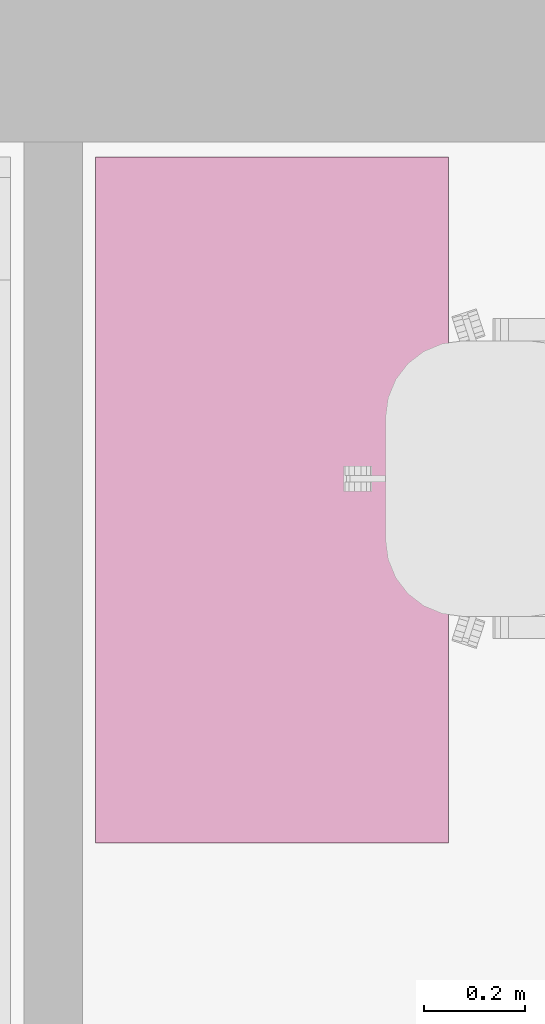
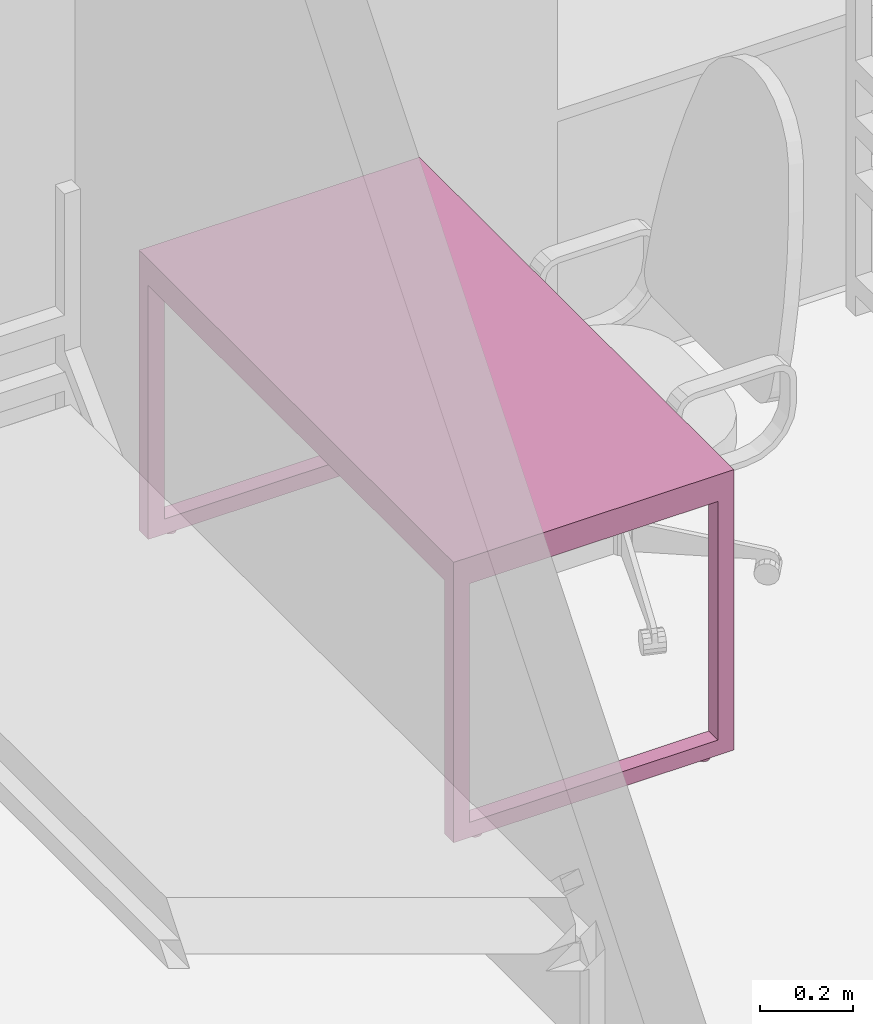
# One storey, part 40 of 46: 1 furnishing.
"""IFC2X3 building model written with IfcOpenShell, lengths in millimetres."""

from ifc_helpers import new_model, entity, si_unit, converted_unit, derived_unit, direction, frame, origin, place, context, subcontext, project, spatial, faceted_brep, source, transform, mapped, material, material_list, type_object, type_shapes, element, save


model = new_model("IFC2X3")

# Units and contexts
model_context = context("Model", 3, precision=0.01, world=origin(), true_north=direction((6.12303176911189e-17, 1.0)))
body_context = subcontext(model_context, "Body", "Model", "MODEL_VIEW")
ifc_project = project(units=[si_unit("LENGTHUNIT", "METRE", prefix="MILLI"), si_unit("AREAUNIT", "SQUARE_METRE"), si_unit("VOLUMEUNIT", "CUBIC_METRE"), converted_unit("PLANEANGLEUNIT", "DEGREE", entity("IfcRatioMeasure", 0.0174532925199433), si_unit("PLANEANGLEUNIT", "RADIAN"), dimensions=[0, 0, 0, 0, 0, 0, 0]), si_unit("MASSUNIT", "GRAM", prefix="KILO"), derived_unit("MASSDENSITYUNIT", [(si_unit("MASSUNIT", "GRAM", prefix="KILO"), 1), (si_unit("LENGTHUNIT", "METRE"), -3)]), si_unit("TIMEUNIT", "SECOND"), si_unit("FREQUENCYUNIT", "HERTZ"), si_unit("THERMODYNAMICTEMPERATUREUNIT", "DEGREE_CELSIUS"), derived_unit("THERMALTRANSMITTANCEUNIT", [(si_unit("MASSUNIT", "GRAM", prefix="KILO"), 1), (si_unit("THERMODYNAMICTEMPERATUREUNIT", "KELVIN"), -1), (si_unit("TIMEUNIT", "SECOND"), -3)]), derived_unit("VOLUMETRICFLOWRATEUNIT", [(si_unit("LENGTHUNIT", "METRE"), 3), (si_unit("TIMEUNIT", "SECOND"), -1)]), si_unit("ELECTRICCURRENTUNIT", "AMPERE"), si_unit("ELECTRICVOLTAGEUNIT", "VOLT"), si_unit("POWERUNIT", "WATT"), si_unit("FORCEUNIT", "NEWTON", prefix="KILO"), si_unit("ILLUMINANCEUNIT", "LUX"), si_unit("LUMINOUSFLUXUNIT", "LUMEN"), si_unit("LUMINOUSINTENSITYUNIT", "CANDELA"), derived_unit("USERDEFINED", [(si_unit("MASSUNIT", "GRAM", prefix="KILO"), -1), (si_unit("LENGTHUNIT", "METRE"), -2), (si_unit("TIMEUNIT", "SECOND"), 3), (si_unit("LUMINOUSFLUXUNIT", "LUMEN"), 1)]), derived_unit("LINEARVELOCITYUNIT", [(si_unit("LENGTHUNIT", "METRE"), 1), (si_unit("TIMEUNIT", "SECOND"), -1)]), si_unit("PRESSUREUNIT", "PASCAL"), derived_unit("USERDEFINED", [(si_unit("LENGTHUNIT", "METRE"), -2), (si_unit("MASSUNIT", "GRAM", prefix="KILO"), 1), (si_unit("TIMEUNIT", "SECOND"), -2)]), derived_unit("LINEARFORCEUNIT", [(si_unit("MASSUNIT", "GRAM", prefix="KILO"), 1), (si_unit("LENGTHUNIT", "METRE"), 1), (si_unit("TIMEUNIT", "SECOND"), -2), (si_unit("LENGTHUNIT", "METRE"), -1)]), derived_unit("PLANARFORCEUNIT", [(si_unit("MASSUNIT", "GRAM", prefix="KILO"), 1), (si_unit("LENGTHUNIT", "METRE"), 1), (si_unit("TIMEUNIT", "SECOND"), -2), (si_unit("LENGTHUNIT", "METRE"), -2)])], contexts=[model_context])

# Site, building, storey, space
site_placement = place(None, origin())
site = spatial("IfcSite", under=ifc_project, at=site_placement, Name="Default", CompositionType="ELEMENT")
building_placement = place(site_placement, origin())
building = spatial("IfcBuilding", under=site, at=building_placement, Name="SMA ARH", CompositionType="ELEMENT")
storey_placement = place(building_placement, origin())
storey = spatial("IfcBuildingStorey", under=building, at=storey_placement, Name="1 Korrus", CompositionType="ELEMENT", Elevation=0.0)
space_placement = place(storey_placement, origin())
space = spatial("IfcSpace", under=storey, at=space_placement, Name="1-24", CompositionType="ELEMENT", InteriorOrExteriorSpace="INTERNAL")

# Furnishing
ifc_material = material(Name="<Unnamed>")
ifc_material_list = material_list([ifc_material, ifc_material])
furniture_type = type_object("IfcFurnitureType", Name="kirjutuslaud 1360x700mm:kirjutuslaud 1360x700mm", material=ifc_material_list)
shared_shape = source(origin(), body_context, "Body", "Brep", [
    faceted_brep([(680.0, -350.0, 720.0), (680.0, 350.0, 720.0), (680.0, 350.0, 750.0), (680.0, -350.0, 750.0), (-680.0, -350.0, 720.0), (-680.0, -350.0, 750.0), (-680.0, 350.0, 750.0), (-680.0, 350.0, 720.0)], [[[0, 1, 2, 3]], [[4, 5, 6, 7]], [[1, 0, 4, 7]], [[2, 1, 7, 6]], [[3, 2, 6, 5]], [[0, 3, 5, 4]]]),
    faceted_brep([(-640.0, -310.0, 680.0), (-640.0, 310.0, 680.0), (-640.0, 310.0, 720.0), (-640.0, -310.0, 720.0), (-680.0, -350.0, 720.0), (-680.0, 350.0, 720.0), (-680.0, 350.0, 10.0), (-680.0, -350.0, 10.0), (-680.0, 310.0, 680.0), (-680.0, -310.0, 680.0), (-680.0, -310.0, 50.0), (-680.0, 310.0, 50.0), (-640.0, -350.0, 10.0), (-640.0, -350.0, 680.0), (640.0, -350.0, 680.0), (640.0, -350.0, 10.0), (680.0, -350.0, 10.0), (680.0, -350.0, 720.0), (-640.0, 350.0, 10.0), (680.0, 350.0, 720.0), (680.0, 350.0, 10.0), (640.0, 350.0, 10.0), (640.0, 350.0, 680.0), (-640.0, 350.0, 680.0), (640.0, 310.0, 720.0), (640.0, -310.0, 720.0), (-640.0, 310.0, 50.0), (-640.0, -310.0, 50.0), (640.0, -310.0, 680.0), (640.0, 310.0, 680.0), (680.0, 310.0, 680.0), (680.0, 310.0, 50.0), (680.0, -310.0, 50.0), (680.0, -310.0, 680.0), (640.0, -310.0, 50.0), (640.0, 310.0, 50.0)], [[[0, 1, 2, 3]], [[4, 5, 6, 7], [8, 9, 10, 11]], [[4, 7, 12, 13, 14, 15, 16, 17]], [[18, 12, 7, 6]], [[6, 5, 19, 20, 21, 22, 23, 18]], [[19, 5, 4, 17], [2, 24, 25, 3]], [[26, 1, 8, 11]], [[27, 26, 11, 10]], [[0, 27, 10, 9]], [[1, 0, 9, 8]], [[14, 13, 0, 28]], [[24, 2, 1, 29]], [[3, 25, 28, 0]], [[17, 16, 20, 19], [30, 31, 32, 33]], [[21, 15, 14, 28, 34, 35, 29, 22]], [[20, 16, 15, 21]], [[31, 30, 29, 35]], [[32, 31, 35, 34]], [[33, 32, 34, 28]], [[30, 33, 28, 29]], [[29, 28, 25, 24]], [[29, 1, 23, 22]], [[12, 18, 23, 1, 26, 27, 0, 13]]]),
    faceted_brep([(-663.729456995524, -270.466136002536, 0.0), (-659.847171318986, -269.955023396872, 0.0), (-655.964885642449, -270.466136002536, 0.0), (-652.347171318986, -271.964642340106, 0.0), (-649.240569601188, -274.348421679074, 0.0), (-646.85679026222, -277.455023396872, 0.0), (-645.35828392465, -281.072737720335, 0.0), (-644.847171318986, -284.955023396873, 0.0), (-645.35828392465, -288.83730907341, 0.0), (-646.85679026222, -292.455023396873, 0.0), (-649.240569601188, -295.561625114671, 0.0), (-652.347171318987, -297.945404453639, 0.0), (-655.964885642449, -299.443910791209, 0.0), (-659.847171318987, -299.955023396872, 0.0), (-663.729456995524, -299.443910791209, 0.0), (-667.347171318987, -297.945404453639, 0.0), (-670.453773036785, -295.561625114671, 0.0), (-672.837552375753, -292.455023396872, 0.0), (-674.336058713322, -288.83730907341, 0.0), (-674.847171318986, -284.955023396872, 0.0), (-674.336058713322, -281.072737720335, 0.0), (-672.837552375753, -277.455023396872, 0.0), (-670.453773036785, -274.348421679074, 0.0), (-667.347171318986, -271.964642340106, 0.0), (-655.964885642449, -299.443910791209, 10.0), (-652.347171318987, -297.945404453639, 10.0), (-649.240569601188, -295.561625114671, 10.0), (-646.85679026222, -292.455023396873, 10.0), (-645.35828392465, -288.83730907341, 10.0), (-644.847171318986, -284.955023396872, 10.0), (-645.35828392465, -281.072737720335, 10.0), (-646.85679026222, -277.455023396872, 10.0), (-649.240569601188, -274.348421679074, 10.0), (-652.347171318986, -271.964642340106, 10.0), (-655.964885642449, -270.466136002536, 10.0), (-659.847171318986, -269.955023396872, 10.0), (-663.729456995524, -270.466136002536, 10.0), (-667.347171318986, -271.964642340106, 10.0), (-670.453773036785, -274.348421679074, 10.0), (-672.837552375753, -277.455023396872, 10.0), (-674.336058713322, -281.072737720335, 10.0), (-674.847171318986, -284.955023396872, 10.0), (-674.336058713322, -288.83730907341, 10.0), (-672.837552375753, -292.455023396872, 10.0), (-670.453773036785, -295.561625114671, 10.0), (-667.347171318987, -297.945404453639, 10.0), (-663.729456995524, -299.443910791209, 10.0), (-659.847171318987, -299.955023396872, 10.0)], [[[0, 1, 2, 3, 4, 5, 6, 7, 8, 9, 10, 11, 12, 13, 14, 15, 16, 17, 18, 19, 20, 21, 22, 23]], [[24, 25, 26, 27, 28, 29, 30, 31, 32, 33, 34, 35, 36, 37, 38, 39, 40, 41, 42, 43, 44, 45, 46, 47]], [[18, 42, 41, 19]], [[17, 43, 42, 18]], [[45, 44, 16, 15]], [[17, 16, 44, 43]], [[46, 45, 15, 14]], [[47, 46, 14, 13]], [[12, 24, 47, 13]], [[11, 25, 24, 12]], [[27, 26, 10, 9]], [[11, 10, 26, 25]], [[28, 27, 9, 8]], [[29, 28, 8, 7]], [[6, 30, 29, 7]], [[5, 31, 30, 6]], [[33, 32, 4, 3]], [[5, 4, 32, 31]], [[34, 33, 3, 2]], [[35, 34, 2, 1]], [[0, 36, 35, 1]], [[23, 37, 36, 0]], [[39, 38, 22, 21]], [[23, 22, 38, 37]], [[40, 39, 21, 20]], [[41, 40, 20, 19]]]),
    faceted_brep([(-655.964885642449, 270.466136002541, 10.0), (-652.347171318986, 271.964642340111, 10.0), (-649.240569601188, 274.348421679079, 10.0), (-646.85679026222, 277.455023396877, 10.0), (-645.35828392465, 281.07273772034, 10.0), (-644.847171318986, 284.955023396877, 10.0), (-645.35828392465, 288.837309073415, 10.0), (-646.85679026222, 292.455023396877, 10.0), (-649.240569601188, 295.561625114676, 10.0), (-652.347171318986, 297.945404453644, 10.0), (-655.964885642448, 299.443910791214, 10.0), (-659.847171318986, 299.955023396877, 10.0), (-663.729456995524, 299.443910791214, 10.0), (-667.347171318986, 297.945404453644, 10.0), (-670.453773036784, 295.561625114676, 10.0), (-672.837552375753, 292.455023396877, 10.0), (-674.336058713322, 288.837309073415, 10.0), (-674.847171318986, 284.955023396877, 10.0), (-674.336058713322, 281.07273772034, 10.0), (-672.837552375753, 277.455023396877, 10.0), (-670.453773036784, 274.348421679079, 10.0), (-667.347171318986, 271.964642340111, 10.0), (-663.729456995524, 270.466136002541, 10.0), (-659.847171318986, 269.955023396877, 10.0), (-655.964885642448, 299.443910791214, 0.0), (-652.347171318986, 297.945404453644, 0.0), (-649.240569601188, 295.561625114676, 0.0), (-646.85679026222, 292.455023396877, 0.0), (-645.35828392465, 288.837309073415, 0.0), (-644.847171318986, 284.955023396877, 0.0), (-645.35828392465, 281.07273772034, 0.0), (-646.85679026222, 277.455023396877, 0.0), (-649.240569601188, 274.348421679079, 0.0), (-652.347171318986, 271.964642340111, 0.0), (-655.964885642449, 270.466136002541, 0.0), (-659.847171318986, 269.955023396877, 0.0), (-663.729456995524, 270.466136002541, 0.0), (-667.347171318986, 271.964642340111, 0.0), (-670.453773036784, 274.348421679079, 0.0), (-672.837552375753, 277.455023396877, 0.0), (-674.336058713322, 281.07273772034, 0.0), (-674.847171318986, 284.955023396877, 0.0), (-674.336058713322, 288.837309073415, 0.0), (-672.837552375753, 292.455023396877, 0.0), (-670.453773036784, 295.561625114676, 0.0), (-667.347171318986, 297.945404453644, 0.0), (-663.729456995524, 299.443910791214, 0.0), (-659.847171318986, 299.955023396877, 0.0)], [[[0, 1, 2, 3, 4, 5, 6, 7, 8, 9, 10, 11, 12, 13, 14, 15, 16, 17, 18, 19, 20, 21, 22, 23]], [[24, 25, 26, 27, 28, 29, 30, 31, 32, 33, 34, 35, 36, 37, 38, 39, 40, 41, 42, 43, 44, 45, 46, 47]], [[40, 18, 17, 41]], [[39, 19, 18, 40]], [[21, 20, 38, 37]], [[39, 38, 20, 19]], [[22, 21, 37, 36]], [[23, 22, 36, 35]], [[34, 0, 23, 35]], [[33, 1, 0, 34]], [[3, 2, 32, 31]], [[33, 32, 2, 1]], [[4, 3, 31, 30]], [[5, 4, 30, 29]], [[28, 6, 5, 29]], [[27, 7, 6, 28]], [[9, 8, 26, 25]], [[27, 26, 8, 7]], [[10, 9, 25, 24]], [[11, 10, 24, 47]], [[46, 12, 11, 47]], [[45, 13, 12, 46]], [[15, 14, 44, 43]], [[45, 44, 14, 13]], [[16, 15, 43, 42]], [[17, 16, 42, 41]]]),
    faceted_brep([(656.270543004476, -270.466136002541, 0.0), (660.152828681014, -269.955023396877, 0.0), (664.035114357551, -270.466136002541, 0.0), (667.652828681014, -271.96464234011, 0.0), (670.759430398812, -274.348421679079, 0.0), (673.14320973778, -277.455023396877, 0.0), (674.64171607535, -281.072737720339, 0.0), (675.152828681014, -284.955023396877, 0.0), (674.64171607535, -288.837309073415, 0.0), (673.14320973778, -292.455023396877, 0.0), (670.759430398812, -295.561625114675, 0.0), (667.652828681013, -297.945404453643, 0.0), (664.035114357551, -299.443910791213, 0.0), (660.152828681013, -299.955023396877, 0.0), (656.270543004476, -299.443910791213, 0.0), (652.652828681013, -297.945404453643, 0.0), (649.546226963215, -295.561625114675, 0.0), (647.162447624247, -292.455023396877, 0.0), (645.663941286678, -288.837309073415, 0.0), (645.152828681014, -284.955023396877, 0.0), (645.663941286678, -281.072737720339, 0.0), (647.162447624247, -277.455023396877, 0.0), (649.546226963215, -274.348421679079, 0.0), (652.652828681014, -271.96464234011, 0.0), (664.035114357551, -299.443910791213, 10.0), (667.652828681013, -297.945404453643, 10.0), (670.759430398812, -295.561625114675, 10.0), (673.14320973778, -292.455023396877, 10.0), (674.64171607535, -288.837309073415, 10.0), (675.152828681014, -284.955023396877, 10.0), (674.64171607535, -281.072737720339, 10.0), (673.14320973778, -277.455023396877, 10.0), (670.759430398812, -274.348421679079, 10.0), (667.652828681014, -271.96464234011, 10.0), (664.035114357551, -270.466136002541, 10.0), (660.152828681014, -269.955023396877, 10.0), (656.270543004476, -270.466136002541, 10.0), (652.652828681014, -271.96464234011, 10.0), (649.546226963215, -274.348421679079, 10.0), (647.162447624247, -277.455023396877, 10.0), (645.663941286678, -281.072737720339, 10.0), (645.152828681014, -284.955023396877, 10.0), (645.663941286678, -288.837309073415, 10.0), (647.162447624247, -292.455023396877, 10.0), (649.546226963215, -295.561625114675, 10.0), (652.652828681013, -297.945404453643, 10.0), (656.270543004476, -299.443910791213, 10.0), (660.152828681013, -299.955023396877, 10.0)], [[[0, 1, 2, 3, 4, 5, 6, 7, 8, 9, 10, 11, 12, 13, 14, 15, 16, 17, 18, 19, 20, 21, 22, 23]], [[24, 25, 26, 27, 28, 29, 30, 31, 32, 33, 34, 35, 36, 37, 38, 39, 40, 41, 42, 43, 44, 45, 46, 47]], [[18, 42, 41, 19]], [[17, 43, 42, 18]], [[45, 44, 16, 15]], [[17, 16, 44, 43]], [[46, 45, 15, 14]], [[47, 46, 14, 13]], [[12, 24, 47, 13]], [[11, 25, 24, 12]], [[27, 26, 10, 9]], [[11, 10, 26, 25]], [[28, 27, 9, 8]], [[29, 28, 8, 7]], [[6, 30, 29, 7]], [[5, 31, 30, 6]], [[33, 32, 4, 3]], [[5, 4, 32, 31]], [[34, 33, 3, 2]], [[35, 34, 2, 1]], [[0, 36, 35, 1]], [[23, 37, 36, 0]], [[39, 38, 22, 21]], [[23, 22, 38, 37]], [[40, 39, 21, 20]], [[41, 40, 20, 19]]]),
    faceted_brep([(664.035114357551, 270.466136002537, 10.0), (667.652828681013, 271.964642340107, 10.0), (670.759430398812, 274.348421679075, 10.0), (673.14320973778, 277.455023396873, 10.0), (674.64171607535, 281.072737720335, 10.0), (675.152828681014, 284.955023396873, 10.0), (674.64171607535, 288.837309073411, 10.0), (673.14320973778, 292.455023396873, 10.0), (670.759430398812, 295.561625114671, 10.0), (667.652828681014, 297.94540445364, 10.0), (664.035114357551, 299.443910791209, 10.0), (660.152828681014, 299.955023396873, 10.0), (656.270543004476, 299.443910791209, 10.0), (652.652828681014, 297.94540445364, 10.0), (649.546226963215, 295.561625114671, 10.0), (647.162447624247, 292.455023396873, 10.0), (645.663941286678, 288.837309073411, 10.0), (645.152828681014, 284.955023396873, 10.0), (645.663941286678, 281.072737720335, 10.0), (647.162447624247, 277.455023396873, 10.0), (649.546226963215, 274.348421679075, 10.0), (652.652828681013, 271.964642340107, 10.0), (656.270543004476, 270.466136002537, 10.0), (660.152828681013, 269.955023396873, 10.0), (664.035114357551, 299.443910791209, 0.0), (667.652828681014, 297.94540445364, 0.0), (670.759430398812, 295.561625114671, 0.0), (673.14320973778, 292.455023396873, 0.0), (674.64171607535, 288.837309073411, 0.0), (675.152828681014, 284.955023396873, 0.0), (674.64171607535, 281.072737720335, 0.0), (673.14320973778, 277.455023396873, 0.0), (670.759430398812, 274.348421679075, 0.0), (667.652828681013, 271.964642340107, 0.0), (664.035114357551, 270.466136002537, 0.0), (660.152828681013, 269.955023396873, 0.0), (656.270543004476, 270.466136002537, 0.0), (652.652828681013, 271.964642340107, 0.0), (649.546226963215, 274.348421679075, 0.0), (647.162447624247, 277.455023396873, 0.0), (645.663941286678, 281.072737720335, 0.0), (645.152828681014, 284.955023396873, 0.0), (645.663941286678, 288.837309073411, 0.0), (647.162447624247, 292.455023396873, 0.0), (649.546226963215, 295.561625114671, 0.0), (652.652828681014, 297.94540445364, 0.0), (656.270543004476, 299.443910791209, 0.0), (660.152828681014, 299.955023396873, 0.0)], [[[0, 1, 2, 3, 4, 5, 6, 7, 8, 9, 10, 11, 12, 13, 14, 15, 16, 17, 18, 19, 20, 21, 22, 23]], [[24, 25, 26, 27, 28, 29, 30, 31, 32, 33, 34, 35, 36, 37, 38, 39, 40, 41, 42, 43, 44, 45, 46, 47]], [[40, 18, 17, 41]], [[39, 19, 18, 40]], [[21, 20, 38, 37]], [[39, 38, 20, 19]], [[22, 21, 37, 36]], [[23, 22, 36, 35]], [[34, 0, 23, 35]], [[33, 1, 0, 34]], [[3, 2, 32, 31]], [[33, 32, 2, 1]], [[4, 3, 31, 30]], [[5, 4, 30, 29]], [[28, 6, 5, 29]], [[27, 7, 6, 28]], [[9, 8, 26, 25]], [[27, 26, 8, 7]], [[10, 9, 25, 24]], [[11, 10, 24, 47]], [[46, 12, 11, 47]], [[45, 13, 12, 46]], [[15, 14, 44, 43]], [[45, 44, 14, 13]], [[16, 15, 43, 42]], [[17, 16, 42, 41]]]),
])
type_shapes(furniture_type, [shared_shape])
furnishing_placement = place(space_placement, frame((19678.0, 11790.0, 0.0), z_axis=(0.0, 0.0, 1.0), x_axis=(0.0, 1.0, 0.0)))
element("IfcFurnishingElement", 1, at=furnishing_placement, inside=space, type_object=furniture_type, Name="kirjutuslaud 1360x700mm:kirjutuslaud 1360x700mm", ObjectType="kirjutuslaud 1360x700mm:kirjutuslaud 1360x700mm", context=body_context, shape_type="MappedRepresentation", body=[
    mapped(shared_shape, transform((0.0, 0.0, 0.0), scale=1.0)),
])

save(model, "model.ifc")
